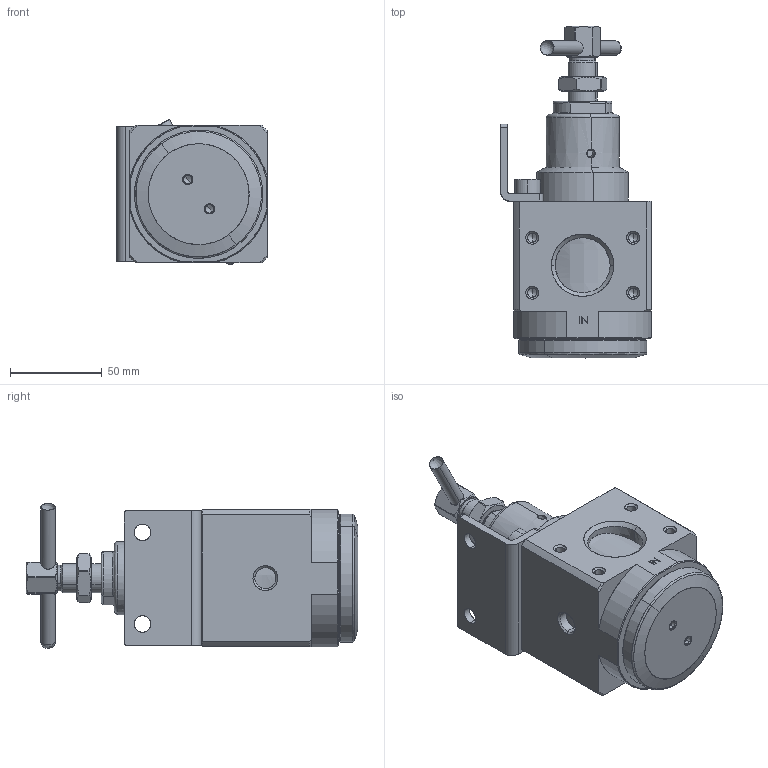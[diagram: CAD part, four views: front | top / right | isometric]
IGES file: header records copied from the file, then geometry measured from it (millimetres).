
Start section: SolidWorks IGES file using analytic representation for surfaces
Global section: file name: C:\Documents and Settings\Administrator\桌面\USR-06,08.IGS,1; native system: 5HSolidWorks 2012; preprocessor: SolidWorks 2012; author: Administrator; date: 140305.101913; units: millimetre
Bounding box: 82.25 x 181 x 79.06 mm (x, y, z)
Surface area: 94537.3 mm2 (no closed solid volume)
Topology: 0 solids, 0 shells, 633 faces, 9498 edges, 10921 vertices
Faces by surface type: revolution 331, bspline 302
